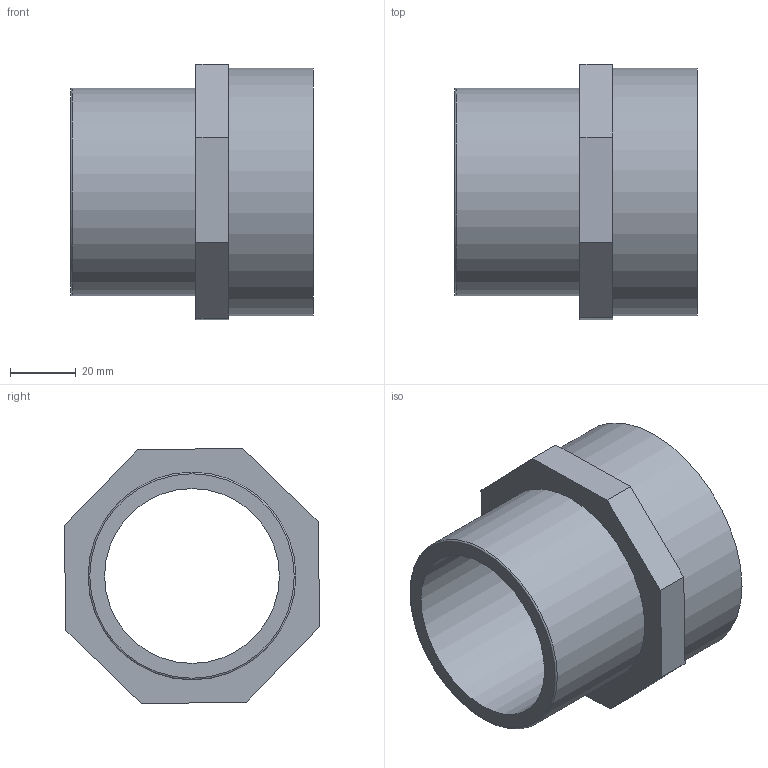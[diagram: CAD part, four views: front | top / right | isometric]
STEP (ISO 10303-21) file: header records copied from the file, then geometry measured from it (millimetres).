
FILE_DESCRIPTION(/* description */ (''),/* implementation_level */ '2;1');
FILE_NAME(/* name */ 'C:\Users\Gabriele\Desktop\disegni 3D\SF12\SF12063G.ipt.stp',/* time_stamp */ '2017-02-10T10:11:31+01:00',/* author */ ('Eugenio'),/* organization */ (''),/* preprocessor_version */ 'ST-DEVELOPER v16.5',/* originating_system */ 'Autodesk Inventor 2017',/* authorisation */ '');
FILE_SCHEMA (('AUTOMOTIVE_DESIGN { 1 0 10303 214 3 1 1 }'));
Length unit declared in the file: millimetre
Products named in the file (1): SF12063G
Bounding box: 73.7 x 77.53 x 77.53 mm (x, y, z)
Volume: 107057.8 mm3; surface area: 47397 mm2
Topology: 2 solids, 2 shells, 28 faces, 62 edges, 41 vertices
Faces by surface type: plane 15, cylinder 6, bspline 6, torus 1
Full cylindrical faces by diameter (mm): 53 x1, 59.61 x2, 63 x1, 75 x1
Entity records: 5877 total; most frequent: CARTESIAN_POINT 5287, ORIENTED_EDGE 112, DIRECTION 96, EDGE_CURVE 56, EDGE_LOOP 41, VERTEX_POINT 41, AXIS2_PLACEMENT_3D 36, FACE_OUTER_BOUND 28
